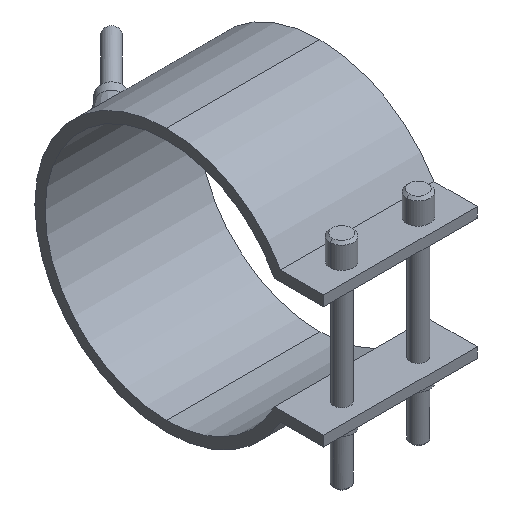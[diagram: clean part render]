
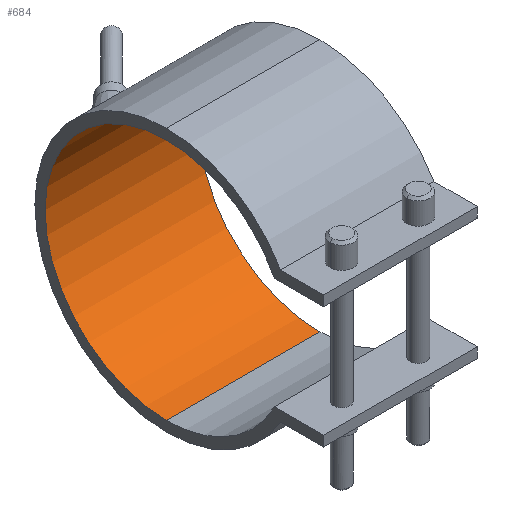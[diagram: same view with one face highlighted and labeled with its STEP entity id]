
A CAD part, isometric view. The second image highlights one B-rep face of the part: STEP entity #684.
In plain terms, the highlighted cylindrical face has radius 47.5 mm (diameter 95 mm), a partial arc.
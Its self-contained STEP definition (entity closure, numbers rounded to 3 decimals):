
#354=CARTESIAN_POINT('Vertex',(30.,0.,47.5)) ;
#359=CARTESIAN_POINT('Axis2P3D Location',(30.,0.,0.)) ;
#363=CARTESIAN_POINT('Vertex',(30.,0.,-47.5)) ;
#470=CARTESIAN_POINT('Vertex',(-30.,0.,-47.5)) ;
#473=CARTESIAN_POINT('Axis2P3D Location',(-30.,0.,0.)) ;
#477=CARTESIAN_POINT('Vertex',(-30.,0.,47.5)) ;
#656=CARTESIAN_POINT('Line Origine',(30.,0.,47.5)) ;
#668=CARTESIAN_POINT('Axis2P3D Location',(30.,0.,0.)) ;
#673=CARTESIAN_POINT('Line Origine',(30.,0.,-47.5)) ;
#360=DIRECTION('Axis2P3D Direction',(1.,0.,0.)) ;
#474=DIRECTION('Axis2P3D Direction',(1.,0.,0.)) ;
#657=DIRECTION('Vector Direction',(1.,0.,0.)) ;
#669=DIRECTION('Axis2P3D Direction',(1.,0.,-0.)) ;
#670=DIRECTION('Axis2P3D XDirection',(0.,0.,-1.)) ;
#674=DIRECTION('Vector Direction',(1.,0.,0.)) ;
#361=AXIS2_PLACEMENT_3D('Circle Axis2P3D',#359,#360,$) ;
#475=AXIS2_PLACEMENT_3D('Circle Axis2P3D',#473,#474,$) ;
#671=AXIS2_PLACEMENT_3D('Cylinder Axis2P3D',#668,#669,#670) ;
#679=ORIENTED_EDGE('',*,*,#365,.T.) ;
#680=ORIENTED_EDGE('',*,*,#660,.T.) ;
#681=ORIENTED_EDGE('',*,*,#479,.F.) ;
#682=ORIENTED_EDGE('',*,*,#677,.T.) ;
#658=VECTOR('Line Direction',#657,1.) ;
#675=VECTOR('Line Direction',#674,1.) ;
#684=ADVANCED_FACE('29095060',(#683),#672,.F.) ;
#362=CIRCLE('generated circle',#361,47.5) ;
#476=CIRCLE('generated circle',#475,47.5) ;
#672=CYLINDRICAL_SURFACE('generated cylinder',#671,47.5) ;
#365=EDGE_CURVE('',#364,#355,#362,.T.) ;
#479=EDGE_CURVE('',#471,#478,#476,.T.) ;
#660=EDGE_CURVE('',#355,#478,#659,.F.) ;
#677=EDGE_CURVE('',#471,#364,#676,.T.) ;
#678=EDGE_LOOP('',(#679,#680,#681,#682)) ;
#683=FACE_OUTER_BOUND('',#678,.T.) ;
#659=LINE('Line',#656,#658) ;
#676=LINE('Line',#673,#675) ;
#355=VERTEX_POINT('',#354) ;
#364=VERTEX_POINT('',#363) ;
#471=VERTEX_POINT('',#470) ;
#478=VERTEX_POINT('',#477) ;
